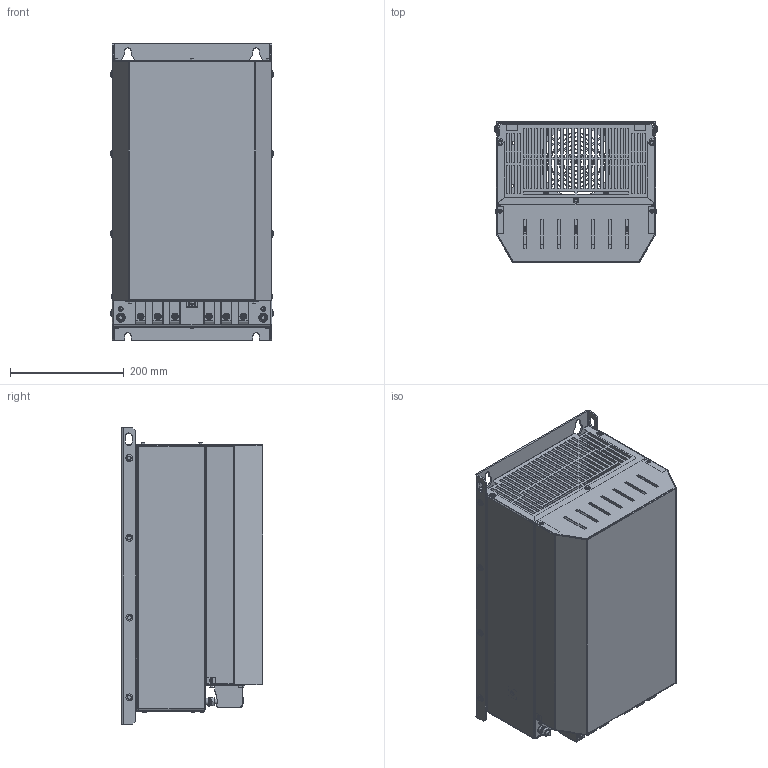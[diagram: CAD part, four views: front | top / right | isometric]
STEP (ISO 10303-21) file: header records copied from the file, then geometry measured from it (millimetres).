
FILE_DESCRIPTION((''),'2;1');
FILE_NAME('C:\Users\Samuel.Meier\Desktop\Fuer_Kamenka\EcoSine_Light_Typ_D.stp','2012-10-10T12:11:02',('Samuel.Meier'),(''),'Autodesk Inventor 2010','Autodesk Inventor 2010','');
FILE_SCHEMA(('AUTOMOTIVE_DESIGN { 1 0 10303 214 1 1 1 1 }'));
Length unit declared in the file: millimetre
Products named in the file (1): Bauteil18
Bounding box: 287.2 x 248 x 520 mm (x, y, z)
Volume: 1396124 mm3; surface area: 1372855.5 mm2
Topology: 10 solids, 39 shells, 2819 faces, 7115 edges, 4411 vertices
Faces by surface type: plane 1385, cylinder 716, bspline 362, cone 145, sphere 120, torus 91
Full cylindrical faces by diameter (mm): 2.905 x1, 3.2 x4, 3.3 x1, 4 x39, 4.3 x4, 5 x16, 5.5 x8, 6.5 x4, 7 x12, 7.3 x2, 7.323 x2, 7.713 x1, 7.9 x13, 8 x6, 8.4 x2, 8.7 x8, 9 x4, 9.9 x2, 10 x14, 10.5 x2, 11.4 x1, 11.6 x6, 12 x8, 12.65 x2, 16 x2
Entity records: 93332 total; most frequent: CARTESIAN_POINT 26809, ORIENTED_EDGE 13136, DIRECTION 12597, EDGE_CURVE 6568, AXIS2_PLACEMENT_3D 4409, VERTEX_POINT 4328, VECTOR 3779, LINE 3779
